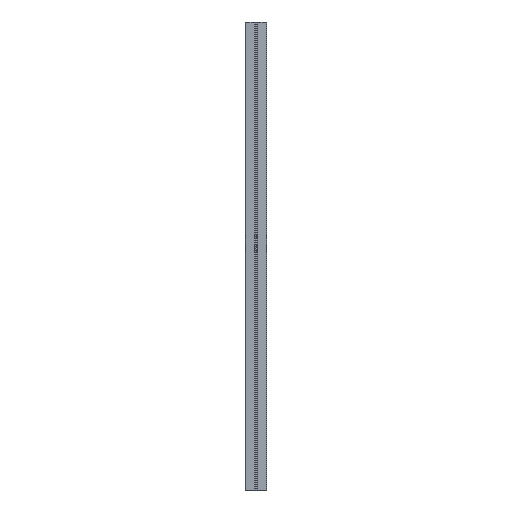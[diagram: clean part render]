
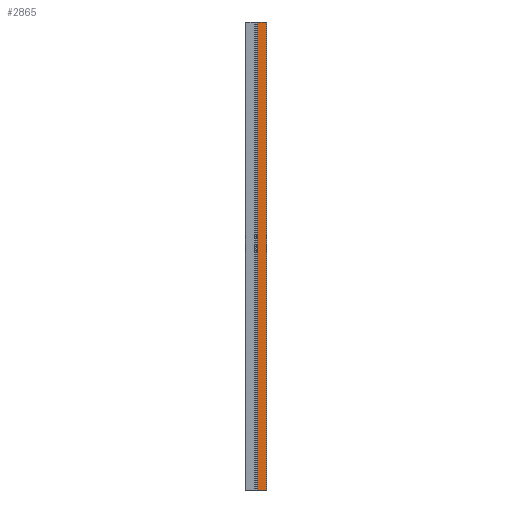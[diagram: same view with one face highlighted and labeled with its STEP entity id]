
A CAD part, left-side view. The second image highlights one B-rep face of the part: STEP entity #2865.
In plain terms, the highlighted planar face has unit normal (-1, 0, 0).
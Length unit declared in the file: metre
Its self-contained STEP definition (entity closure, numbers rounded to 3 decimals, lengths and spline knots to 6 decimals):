
#49=PLANE('',#3083);
#165=FACE_OUTER_BOUND('',#313,.T.);
#313=EDGE_LOOP('',(#2104,#2105,#2106,#2107));
#517=LINE('',#4444,#821);
#518=LINE('',#4447,#822);
#519=LINE('',#4449,#823);
#520=LINE('',#4450,#824);
#821=VECTOR('',#3593,1.);
#822=VECTOR('',#3596,0.01735);
#823=VECTOR('',#3597,0.01735);
#824=VECTOR('',#3598,1.);
#1264=VERTEX_POINT('',#4437);
#1267=VERTEX_POINT('',#4442);
#1268=VERTEX_POINT('',#4446);
#1269=VERTEX_POINT('',#4448);
#1613=EDGE_CURVE('',#1264,#1267,#517,.T.);
#1614=EDGE_CURVE('',#1268,#1264,#518,.T.);
#1615=EDGE_CURVE('',#1269,#1267,#519,.T.);
#1616=EDGE_CURVE('',#1268,#1269,#520,.T.);
#2104=ORIENTED_EDGE('',*,*,#1614,.T.);
#2105=ORIENTED_EDGE('',*,*,#1613,.T.);
#2106=ORIENTED_EDGE('',*,*,#1615,.F.);
#2107=ORIENTED_EDGE('',*,*,#1616,.F.);
#2865=ADVANCED_FACE('',(#165),#49,.T.);
#3083=AXIS2_PLACEMENT_3D('',#4445,#3594,#3595);
#3593=DIRECTION('',(0.,0.,1.));
#3594=DIRECTION('center_axis',(-1.,0.,0.));
#3595=DIRECTION('ref_axis',(0.,0.,1.));
#3596=DIRECTION('',(0.,-1.,0.));
#3597=DIRECTION('',(0.,-1.,0.));
#3598=DIRECTION('',(0.,0.,1.));
#4437=CARTESIAN_POINT('',(-0.0225,-0.0215,0.));
#4442=CARTESIAN_POINT('',(-0.0225,-0.0215,1.));
#4444=CARTESIAN_POINT('',(-0.0225,-0.0215,0.));
#4445=CARTESIAN_POINT('Origin',(-0.0225,-0.00415,0.));
#4446=CARTESIAN_POINT('',(-0.0225,-0.00415,0.));
#4447=CARTESIAN_POINT('',(-0.0225,-0.00415,0.));
#4448=CARTESIAN_POINT('',(-0.0225,-0.00415,1.));
#4449=CARTESIAN_POINT('',(-0.0225,-0.00415,1.));
#4450=CARTESIAN_POINT('',(-0.0225,-0.00415,0.));
